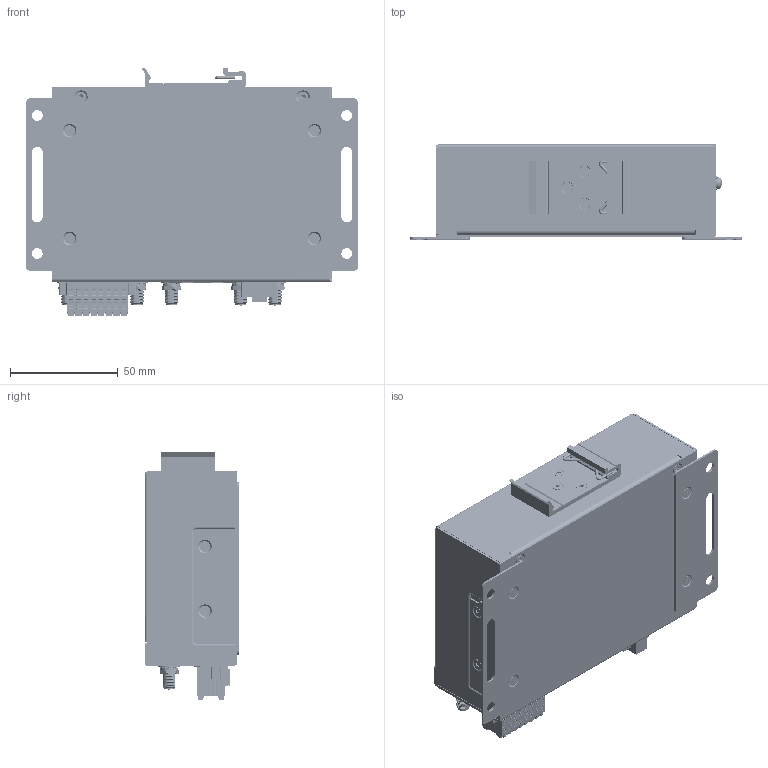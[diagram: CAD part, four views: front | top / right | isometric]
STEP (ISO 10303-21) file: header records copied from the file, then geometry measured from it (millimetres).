
FILE_DESCRIPTION (( 'STEP AP214' ), '1' );
FILE_NAME ('ICR-4261W.STEP', '2024-11-05T09:02:36', ( '' ), ( '' ), 'SwSTEP 2.0', 'SolidWorks 2024', '' );
FILE_SCHEMA (( 'AUTOMOTIVE_DESIGN' ));
Length unit declared in the file: millimetre
Products named in the file (51): ChassisBottom; PCI_Female_Connector_67P; Lightpipe_4P; Micro_SD_card_holder_part_2; WAS_ZC_2_SR; SCR_ZC_M3_L6_PH_PW; Dip_Switch_2_positon; B-ICR41(2)xx-4_B-ICR42xxLS-4; USB_3_0_type_A; Chassis_package-ICR-4(1,2)xx; SCR_BK_M3_L5_PH_FL_TW_GLUE; RJ45_2x_Connector; SIM_holder; Micro_SD_card_holder_part_1; CDS_M_H5_W7,3_CHM3; CoolingPadCellular; PCI_Female_Connector_52P; CON_WR2; ChassisSimCover; SCR_BK_M3_L5_PH_FL_TW; Tact_Switch_right_angle; CON-ICR28-16; WPEQ-268AXI; Bottom_Base_for_ICR-4(1,2)xx; ANT_PG_L150_SMA_I; IO_Header_16P; Label_SIM_SD_IO_configuration_SIM_IO; RM520N-GL; chassisWallMount; Pluggable_Term_Blk_2P; DIN_25_AL; ANT_PG_L200_R-SMA_UFL; SCR_ZC_M2_L5_PH_P_M2x5; ChassisTop; Micro_SD_card_holder; AlluminiumCooler; ICR-4261W; Pin_header_6x2P; SCR_BK_M3_L4_TX8_FL_SCR; ThermalTape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
Assembly tree (73 placements, depth 5):
  ICR-4261W
    Chassis_package-ICR-4(1,2)xx
      Case_for_ICR-4(1,2)xx
        Bottom_Base_for_ICR-4(1,2)xx
          ChassisBottom
          CDS_M_H5_W7,3_CHM3  x4
        ChassisTop
      ChassisSimCover
      ThermalTape
      chassisWallMount  x2
      AlluminiumCooler
    B-ICR41(2)xx-4_B-ICR42xxLS-4
      PCB_ICR-4(1,2)xx
      PCI_Female_Connector_52P
      POST_D4,5xL5
      Battery_SMT_holder_Keystone-PN3000
      Lightpipe_4P  x2
      RJ45_2x_Connector
      USB_3_0_type_A
      IO_Header_16P
      POST_D6xL4
      PCI_Female_Connector_67P
      SIM_holder  x2
      Tact_Switch_right_angle
      Radial_THT_Capacitor
      Pluggable_Term_Blk_2P
      Micro_SD_card_holder
        Micro_SD_card_holder_part_1
        Micro_SD_card_holder_part_2
      Dip_Switch_2_positon
      Pin_header_6x2P
    CON_WR2
    CON-ICR28-16
    BAT_CR1225
    DIN_25_AL
    Label_SIM_SD_IO_configuration_SIM_IO
    Label_42W2C4
    Thermal_pad_46x30
    CoolingPadCellular  x2
    WPEQ-268AXI
    RM520N-GL
    ANT_PG_L200_R-SMA_UFL  x2
    ANT_PG_L150_SMA_I  x4
    SCR_BK_M3_L4_TX8_FL_SCR  x4
    SCR_BK_M3_L5_PH_FL_TW_GLUE  x7
    SCR_BK_M3_L5_PH_FL_TW  x2
    SCR_ZC_M3_L6_PH_PW_2
    SCR_ZC_M3_L10_PH_PW
    SCR_ZC_M3_L6_PH_PW  x3
    SCR_ZC_M2_L5_PH_P_M2x5
    WAS_ZC_2_SR
Bounding box: 153.9 x 44 x 115.39 mm (x, y, z)
Volume: 110681.8 mm3; surface area: 208061 mm2
Topology: 96 solids, 155 shells, 18545 faces, 50782 edges, 33217 vertices
Faces by surface type: plane 10190, cylinder 3919, bspline 3628, cone 485, torus 231, sphere 92
Entity records: 659898 total; most frequent: CARTESIAN_POINT 215214, ORIENTED_EDGE 88544, DIRECTION 67517, EDGE_CURVE 44469, VERTEX_POINT 29040, VECTOR 27997, LINE 27997, AXIS2_PLACEMENT_3D 19760
